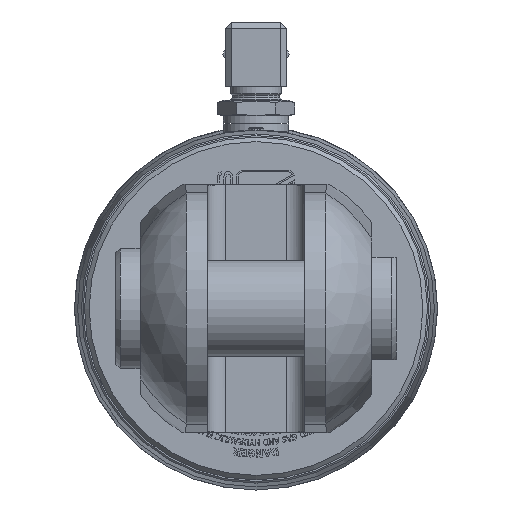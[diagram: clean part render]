
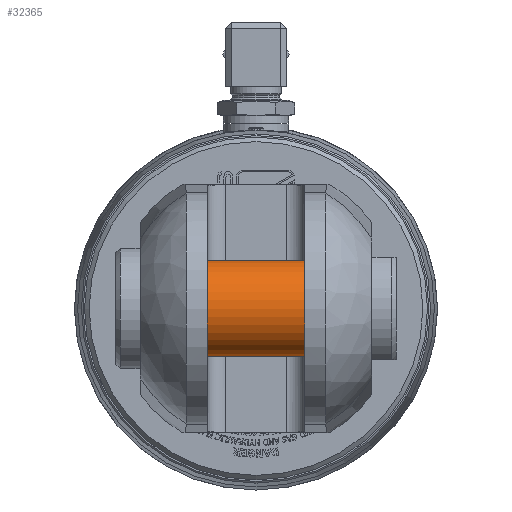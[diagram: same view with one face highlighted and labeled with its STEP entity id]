
A CAD part, left-side view. The second image highlights one B-rep face of the part: STEP entity #32365.
In plain terms, the highlighted cylindrical face has radius 15.875 mm (diameter 31.75 mm), a full revolution.
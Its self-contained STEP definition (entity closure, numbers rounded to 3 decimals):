
#3260=FACE_OUTER_BOUND('',#5024,.T.);
#5024=EDGE_LOOP('',(#21203,#21204,#21205,#21206,#21207,#21208));
#6953=LINE('',#42024,#9909);
#9909=VECTOR('',#35805,15.875);
#12866=CIRCLE('',#34158,15.875);
#12867=CIRCLE('',#34159,15.875);
#12868=CIRCLE('',#34160,15.875);
#12869=CIRCLE('',#34161,15.875);
#13289=VERTEX_POINT('',#42020);
#13290=VERTEX_POINT('',#42021);
#13291=VERTEX_POINT('',#42023);
#13292=VERTEX_POINT('',#42025);
#16443=EDGE_CURVE('',#13289,#13290,#12866,.T.);
#16444=EDGE_CURVE('',#13290,#13291,#6953,.T.);
#16445=EDGE_CURVE('',#13291,#13292,#12867,.T.);
#16446=EDGE_CURVE('',#13292,#13291,#12868,.T.);
#16447=EDGE_CURVE('',#13290,#13289,#12869,.T.);
#21203=ORIENTED_EDGE('',*,*,#16443,.T.);
#21204=ORIENTED_EDGE('',*,*,#16444,.T.);
#21205=ORIENTED_EDGE('',*,*,#16445,.T.);
#21206=ORIENTED_EDGE('',*,*,#16446,.T.);
#21207=ORIENTED_EDGE('',*,*,#16444,.F.);
#21208=ORIENTED_EDGE('',*,*,#16447,.T.);
#30704=CYLINDRICAL_SURFACE('',#34157,15.875);
#32365=ADVANCED_FACE('',(#3260),#30704,.T.);
#34157=AXIS2_PLACEMENT_3D('',#42019,#35801,#35802);
#34158=AXIS2_PLACEMENT_3D('',#42022,#35803,#35804);
#34159=AXIS2_PLACEMENT_3D('',#42026,#35806,#35807);
#34160=AXIS2_PLACEMENT_3D('',#42027,#35808,#35809);
#34161=AXIS2_PLACEMENT_3D('',#42028,#35810,#35811);
#35801=DIRECTION('center_axis',(0.,-1.,0.));
#35802=DIRECTION('ref_axis',(0.,0.,
1.));
#35803=DIRECTION('center_axis',(0.,1.,0.));
#35804=DIRECTION('ref_axis',(0.,0.,
1.));
#35805=DIRECTION('',(0.,1.,0.));
#35806=DIRECTION('center_axis',(0.,-1.,0.));
#35807=DIRECTION('ref_axis',(0.,0.,
1.));
#35808=DIRECTION('center_axis',(0.,-1.,0.));
#35809=DIRECTION('ref_axis',(0.,0.,
1.));
#35810=DIRECTION('center_axis',(0.,1.,0.));
#35811=DIRECTION('ref_axis',(0.,0.,
1.));
#42019=CARTESIAN_POINT('Origin',(-1080.8,0.,0.));
#42020=CARTESIAN_POINT('',(-1064.925,-15.975,0.));
#42021=CARTESIAN_POINT('',(-1080.8,-15.975,-15.875));
#42022=CARTESIAN_POINT('Origin',(-1080.8,-15.975,0.));
#42023=CARTESIAN_POINT('',(-1080.8,15.975,-15.875));
#42024=CARTESIAN_POINT('',(-1080.8,0.,-15.875));
#42025=CARTESIAN_POINT('',(-1064.925,15.975,0.));
#42026=CARTESIAN_POINT('Origin',(-1080.8,15.975,0.));
#42027=CARTESIAN_POINT('Origin',(-1080.8,15.975,0.));
#42028=CARTESIAN_POINT('Origin',(-1080.8,-15.975,0.));
